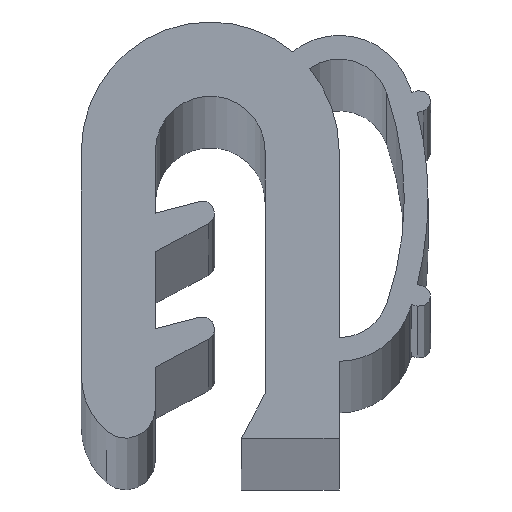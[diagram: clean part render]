
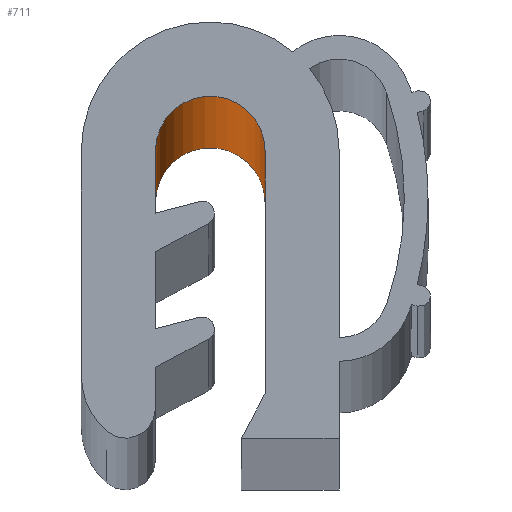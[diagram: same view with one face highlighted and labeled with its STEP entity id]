
A CAD part, top view. The second image highlights one B-rep face of the part: STEP entity #711.
In plain terms, the highlighted cylindrical face has radius 1.85 mm (diameter 3.7 mm), a partial arc.
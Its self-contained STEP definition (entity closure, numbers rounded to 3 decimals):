
#22 = CIRCLE ( 'NONE', #629, 1.85 ) ;
#30 = LINE ( 'NONE', #927, #33 ) ;
#32 = CIRCLE ( 'NONE', #630, 1.85 ) ;
#33 = VECTOR ( 'NONE', #924, 1000. ) ;
#34 = LINE ( 'NONE', #926, #36 ) ;
#36 = VECTOR ( 'NONE', #937, 1000. ) ;
#99 = ORIENTED_EDGE ( 'NONE', *, *, #1390, .T. ) ;
#156 = ORIENTED_EDGE ( 'NONE', *, *, #1387, .T. ) ;
#188 = VERTEX_POINT ( 'NONE', #1126 ) ;
#190 = VERTEX_POINT ( 'NONE', #1332 ) ;
#200 = VERTEX_POINT ( 'NONE', #1321 ) ;
#220 = VERTEX_POINT ( 'NONE', #1301 ) ;
#299 = FACE_OUTER_BOUND ( 'NONE', #740, .T. ) ;
#302 = CYLINDRICAL_SURFACE ( 'NONE', #1434, 1.85 ) ;
#442 = ORIENTED_EDGE ( 'NONE', *, *, #1389, .F. ) ;
#465 = ORIENTED_EDGE ( 'NONE', *, *, #1388, .F. ) ;
#629 = AXIS2_PLACEMENT_3D ( 'NONE', #922, #921, #919 ) ;
#630 = AXIS2_PLACEMENT_3D ( 'NONE', #914, #913, #912 ) ;
#711 = ADVANCED_FACE ( 'NONE', ( #299 ), #302, .F. ) ;
#740 = EDGE_LOOP ( 'NONE', ( #465, #442, #99, #156 ) ) ;
#841 = CARTESIAN_POINT ( 'NONE',  ( 0., 0., -1000. ) ) ;
#886 = DIRECTION ( 'NONE',  ( 1., 0., 0. ) ) ;
#896 = DIRECTION ( 'NONE',  ( 0., 0., 1. ) ) ;
#912 = DIRECTION ( 'NONE',  ( 1., 0., 0. ) ) ;
#913 = DIRECTION ( 'NONE',  ( 0., 0., -1. ) ) ;
#914 = CARTESIAN_POINT ( 'NONE',  ( 0., 0., -1000. ) ) ;
#919 = DIRECTION ( 'NONE',  ( 1., 0., 0. ) ) ;
#921 = DIRECTION ( 'NONE',  ( 0., 0., -1. ) ) ;
#922 = CARTESIAN_POINT ( 'NONE',  ( 0., 0., 0. ) ) ;
#924 = DIRECTION ( 'NONE',  ( 0., 0., 1. ) ) ;
#926 = CARTESIAN_POINT ( 'NONE',  ( -1.85, 0., -1000. ) ) ;
#927 = CARTESIAN_POINT ( 'NONE',  ( 1.85, 0., -1000. ) ) ;
#937 = DIRECTION ( 'NONE',  ( 0., 0., 1. ) ) ;
#1126 = CARTESIAN_POINT ( 'NONE',  ( -1.85, 0., 0. ) ) ;
#1301 = CARTESIAN_POINT ( 'NONE',  ( 1.85, 0., -1000. ) ) ;
#1321 = CARTESIAN_POINT ( 'NONE',  ( -1.85, 0., -1000. ) ) ;
#1332 = CARTESIAN_POINT ( 'NONE',  ( 1.85, 0., 0. ) ) ;
#1387 = EDGE_CURVE ( 'NONE', #220, #190, #30, .T. ) ;
#1388 = EDGE_CURVE ( 'NONE', #188, #190, #22, .T. ) ;
#1389 = EDGE_CURVE ( 'NONE', #200, #188, #34, .T. ) ;
#1390 = EDGE_CURVE ( 'NONE', #200, #220, #32, .T. ) ;
#1434 = AXIS2_PLACEMENT_3D ( 'NONE', #841, #896, #886 ) ;
